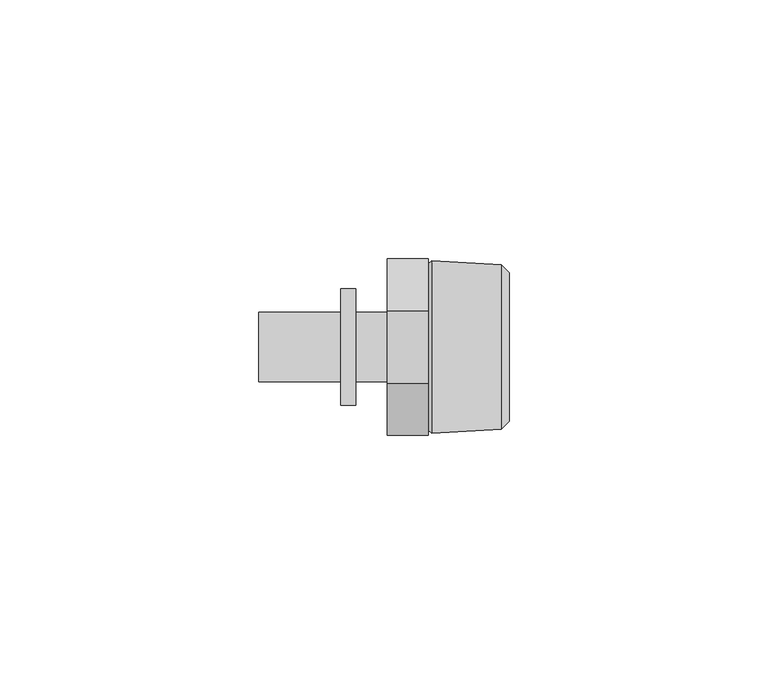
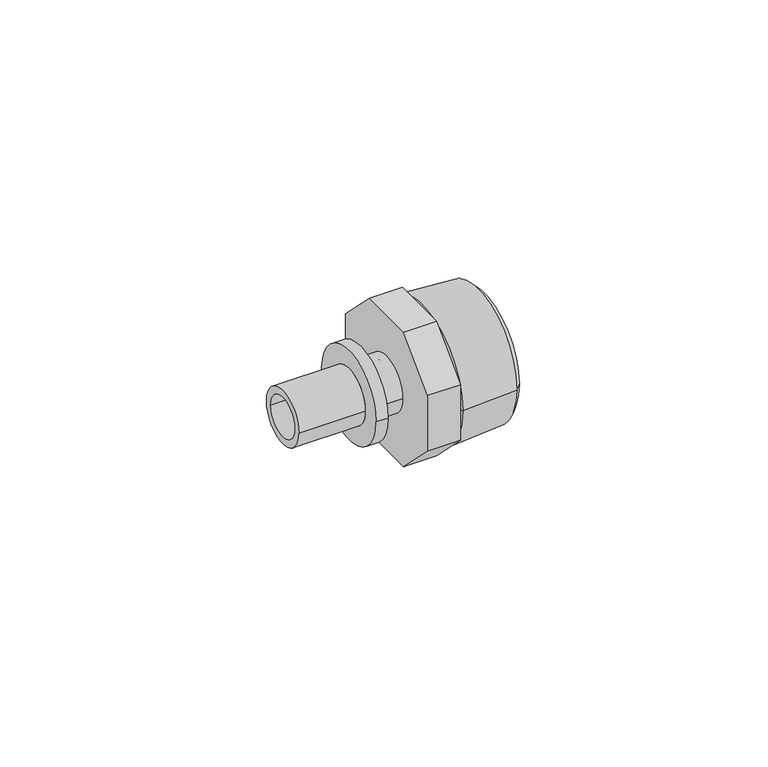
"""IFC4 building model written with IfcOpenShell, lengths in millimetres: pipe fitting geometry, RAUTITAN_Adapter_external_thread : RTI A external DE."""

from ifc_helpers import new_model, si_unit, frame, origin, place, context, project, spatial, polyline, circle_curve, outline, extrude, source, transform, mapped, element, save
from ifc_brep_helpers import plane_surface, cylinder_surface, revolved_surface, advanced_brep


def pipe_fitting_7c315e3e(model_context):
    return source(origin(), model_context, "Body", "SolidModel", [
        advanced_brep(
        [(-8.97, 6.725, 0.0), (-8.97, -6.725, 0.0), (-24.8, -6.725, 0.0), (-24.8, 6.725, 0.0), (-6.1, 11.25, 0.0), (-6.1, -11.25, 0.0), (-8.97, -11.25, 0.0), (-8.97, 11.25, 0.0), (-24.8, 4.95, 0.0), (-24.8, -4.95, 0.0), (0.0, -4.95, 0.0), (0.0, 4.95, 0.0), (0.0, 6.725, 0.0), (0.0, -6.725, 0.0), (-6.1, -6.725, 0.0), (-6.1, 6.725, 0.0)],
        [
            (0, 1, circle_curve(frame((-8.97, 0.0, 0.0), z_axis=(-1.0, 0.0, 0.0), x_axis=(0.0, -1.0, 0.0)), 6.725)),
            (1, 2),
            (2, 3, circle_curve(frame((-24.8, 0.0, 0.0), z_axis=(1.0, 0.0, 0.0), x_axis=(0.0, -1.0, 0.0)), 6.725)),
            (3, 0),
            (4, 5, circle_curve(frame((-6.1, 0.0, 0.0), z_axis=(-1.0, 0.0, 0.0), x_axis=(0.0, -1.0, 0.0)), 11.25)),
            (5, 6),
            (6, 7, circle_curve(frame((-8.97, 0.0, 0.0), z_axis=(1.0, 0.0, 0.0), x_axis=(0.0, -1.0, 0.0)), 11.25)),
            (7, 4),
            (8, 9, circle_curve(frame((-24.8, 0.0, 0.0), z_axis=(-1.0, 0.0, 0.0), x_axis=(0.0, -1.0, 0.0)), 4.95)),
            (9, 10),
            (10, 11, circle_curve(frame((0.0, 0.0, 0.0), z_axis=(1.0, 0.0, 0.0), x_axis=(0.0, -1.0, 0.0)), 4.95)),
            (11, 8),
            (2, 3, circle_curve(frame((-24.8, 0.0, 0.0), z_axis=(-1.0, 0.0, 0.0), x_axis=(0.0, 1.0, 0.0)), 6.725)),
            (8, 9, circle_curve(frame((-24.8, 0.0, 0.0), z_axis=(1.0, 0.0, 0.0), x_axis=(0.0, 1.0, 0.0)), 4.95)),
            (1, 0, circle_curve(frame((-8.97, 0.0, 0.0), z_axis=(-1.0, 0.0, 0.0), x_axis=(0.0, 1.0, 0.0)), 6.725)),
            (6, 7, circle_curve(frame((-8.97, 0.0, 0.0), z_axis=(-1.0, 0.0, 0.0), x_axis=(0.0, 1.0, 0.0)), 11.25)),
            (5, 4, circle_curve(frame((-6.1, 0.0, 0.0), z_axis=(-1.0, 0.0, 0.0), x_axis=(0.0, 1.0, 0.0)), 11.25)),
            (12, 13, circle_curve(frame((0.0, 0.0, 0.0), z_axis=(1.0, 0.0, 0.0), x_axis=(0.0, 1.0, 0.0)), 6.725)),
            (13, 12, circle_curve(frame((0.0, 0.0, 0.0), z_axis=(1.0, 0.0, 0.0), x_axis=(0.0, -1.0, 0.0)), 6.725)),
            (10, 11, circle_curve(frame((0.0, 0.0, 0.0), z_axis=(-1.0, 0.0, 0.0), x_axis=(0.0, 1.0, 0.0)), 4.95)),
            (13, 14),
            (14, 15, circle_curve(frame((-6.1, 0.0, 0.0), z_axis=(1.0, 0.0, 0.0), x_axis=(0.0, -1.0, 0.0)), 6.725)),
            (15, 12),
            (14, 15, circle_curve(frame((-6.1, 0.0, 0.0), z_axis=(-1.0, 0.0, 0.0), x_axis=(0.0, 1.0, 0.0)), 6.725)),
        ],
        [
            cylinder_surface(frame((0.0, 0.0, 0.0), z_axis=(1.0, 0.0, 0.0), x_axis=(0.0, -1.0, 0.0)), 6.725),
            cylinder_surface(frame((0.0, 0.0, 0.0), z_axis=(1.0, 0.0, 0.0), x_axis=(0.0, -1.0, 0.0)), 11.25),
            revolved_surface(polyline([(0.0, -4.95, 0.0), (-24.8, -4.95, 0.0)]), (0.0, 0.0, 0.0), (1.0, 0.0, 0.0)),
            plane_surface(frame((-24.8, 0.0, 0.0), z_axis=(-1.0, 0.0, 0.0), x_axis=(0.0, 1.0, 0.0))),
            cylinder_surface(frame((0.0, 0.0, 0.0), z_axis=(1.0, 0.0, 0.0), x_axis=(0.0, 1.0, 0.0)), 6.725),
            plane_surface(frame((-8.97, 0.0, 0.0), z_axis=(-1.0, 0.0, 0.0), x_axis=(0.0, 1.0, 0.0))),
            cylinder_surface(frame((0.0, 0.0, 0.0), z_axis=(1.0, 0.0, 0.0), x_axis=(0.0, 1.0, 0.0)), 11.25),
            plane_surface(frame((0.0, 0.0, 0.0), z_axis=(1.0, 0.0, 0.0), x_axis=(0.0, 1.0, 0.0))),
            revolved_surface(polyline([(0.0, 4.95, 0.0), (-24.8, 4.95, 0.0)]), (0.0, 0.0, 0.0), (1.0, 0.0, 0.0)),
            plane_surface(frame((-6.1, 0.0, 0.0), z_axis=(1.0, 0.0, 0.0), x_axis=(0.0, 1.0, 0.0))),
        ],
        [
            (0, [[1, 2, 3, 4]]),
            (1, [[5, 6, 7, 8]]),
            (2, [[9, 10, 11, 12]]),
            (3, [[13, -3], [14, -9]]),
            (4, [[15, -4, -13, -2]]),
            (5, [[16, -7], [-15, -1]]),
            (6, [[17, -8, -16, -6]]),
            (7, [[18, 19], [20, -11]]),
            (8, [[-14, -12, -20, -10]]),
            (0, [[-19, 21, 22, 23]]),
            (9, [[-17, -5], [24, -22]]),
            (4, [[-18, -23, -24, -21]]),
        ],
    ),
        advanced_brep(
        [(8.9732803, 12.75, 0.0), (8.9732803, -12.75, 0.0), (23.5, -12.75, 0.0), (23.5, 12.75, 0.0), (7.87, 11.6467197, 0.0), (7.87, -11.6467197, 0.0), (8.6106902, 16.695, 0.0), (8.6106902, -16.695, 0.0), (7.87, -16.1, 0.0), (7.87, 16.1, 0.0), (22.0000007, 15.91, 0.0), (22.0000007, -15.91, 0.0), (23.5, 14.3, 0.0), (23.5, -14.3, 0.0)],
        [
            (0, 1, circle_curve(frame((8.9732803, 0.0, 0.0), z_axis=(-1.0, 0.0, 0.0), x_axis=(0.0, -1.0, 0.0)), 12.75)),
            (1, 2),
            (2, 3, circle_curve(frame((23.5, 0.0, 0.0), z_axis=(1.0, 0.0, 0.0), x_axis=(0.0, -1.0, 0.0)), 12.75)),
            (3, 0),
            (4, 5, circle_curve(frame((7.87, 0.0, 0.0), z_axis=(-1.0, 0.0, 0.0), x_axis=(0.0, -1.0, 0.0)), 11.6467197)),
            (5, 1),
            (0, 4),
            (6, 7, circle_curve(frame((8.6106902, 0.0, 0.0), z_axis=(-1.0, 0.0, 0.0), x_axis=(0.0, -1.0, 0.0)), 16.695)),
            (7, 8),
            (8, 9, circle_curve(frame((7.87, 0.0, 0.0), z_axis=(1.0, 0.0, 0.0), x_axis=(0.0, -1.0, 0.0)), 16.1)),
            (9, 6),
            (10, 11, circle_curve(frame((22.0000007, 0.0, 0.0), z_axis=(-1.0, 0.0, 0.0), x_axis=(0.0, -1.0, 0.0)), 15.91)),
            (11, 7),
            (6, 10),
            (12, 13, circle_curve(frame((23.5, 0.0, 0.0), z_axis=(-1.0, 0.0, 0.0), x_axis=(0.0, -1.0, 0.0)), 14.3)),
            (13, 11),
            (10, 12),
            (1, 0, circle_curve(frame((8.9732803, 0.0, 0.0), z_axis=(-1.0, 0.0, 0.0), x_axis=(0.0, 1.0, 0.0)), 12.75)),
            (3, 2, circle_curve(frame((23.5, 0.0, 0.0), z_axis=(1.0, 0.0, 0.0), x_axis=(0.0, 1.0, 0.0)), 12.75)),
            (5, 4, circle_curve(frame((7.87, 0.0, 0.0), z_axis=(-1.0, 0.0, 0.0), x_axis=(0.0, 1.0, 0.0)), 11.6467197)),
            (8, 9, circle_curve(frame((7.87, 0.0, 0.0), z_axis=(-1.0, 0.0, 0.0), x_axis=(0.0, 1.0, 0.0)), 16.1)),
            (7, 6, circle_curve(frame((8.6106902, 0.0, 0.0), z_axis=(-1.0, 0.0, 0.0), x_axis=(0.0, 1.0, 0.0)), 16.695)),
            (11, 10, circle_curve(frame((22.0000007, 0.0, 0.0), z_axis=(-1.0, 0.0, 0.0), x_axis=(0.0, 1.0, 0.0)), 15.91)),
            (13, 12, circle_curve(frame((23.5, 0.0, 0.0), z_axis=(-1.0, 0.0, 0.0), x_axis=(0.0, 1.0, 0.0)), 14.3)),
        ],
        [
            revolved_surface(polyline([(23.5, -12.75, 0.0), (8.9732803, -12.75, 0.0)]), (0.0, 0.0, 0.0), (1.0, 0.0, 0.0)),
            revolved_surface(polyline([(8.9732803, -12.75, 0.0), (7.87, -11.6467197, 0.0)]), (0.0, 0.0, 0.0), (1.0, 0.0, 0.0)),
            revolved_surface(polyline([(7.87, -16.1, 0.0), (8.6106902, -16.695, 0.0)]), (0.0, 0.0, 0.0), (1.0, 0.0, 0.0)),
            revolved_surface(polyline([(8.6106902, -16.695, 0.0), (22.0000007, -15.91, 0.0)]), (0.0, 0.0, 0.0), (1.0, 0.0, 0.0)),
            revolved_surface(polyline([(22.0000007, -15.91, 0.0), (23.5, -14.3, 0.0)]), (0.0, 0.0, 0.0), (1.0, 0.0, 0.0)),
            revolved_surface(polyline([(23.5, 12.75, 0.0), (8.9732803, 12.75, 0.0)]), (0.0, 0.0, 0.0), (1.0, 0.0, 0.0)),
            revolved_surface(polyline([(8.9732803, 12.75, 0.0), (7.87, 11.6467197, 0.0)]), (0.0, 0.0, 0.0), (1.0, 0.0, 0.0)),
            plane_surface(frame((7.87, 0.0, 0.0), z_axis=(-1.0, 0.0, 0.0), x_axis=(0.0, 1.0, 0.0))),
            revolved_surface(polyline([(7.87, 16.1, 0.0), (8.6106902, 16.695, 0.0)]), (0.0, 0.0, 0.0), (1.0, 0.0, 0.0)),
            revolved_surface(polyline([(8.6106902, 16.695, 0.0), (22.0000007, 15.91, 0.0)]), (0.0, 0.0, 0.0), (1.0, 0.0, 0.0)),
            revolved_surface(polyline([(22.0000007, 15.91, 0.0), (23.5, 14.3, 0.0)]), (0.0, 0.0, 0.0), (1.0, 0.0, 0.0)),
            plane_surface(frame((23.5, 0.0, 0.0), z_axis=(1.0, 0.0, 0.0), x_axis=(0.0, 1.0, 0.0))),
        ],
        [
            (0, [[1, 2, 3, 4]]),
            (1, [[5, 6, -1, 7]]),
            (2, [[8, 9, 10, 11]]),
            (3, [[12, 13, -8, 14]]),
            (4, [[15, 16, -12, 17]]),
            (5, [[18, -4, 19, -2]]),
            (6, [[20, -7, -18, -6]]),
            (7, [[21, -10], [-20, -5]]),
            (8, [[22, -11, -21, -9]]),
            (9, [[23, -14, -22, -13]]),
            (10, [[24, -17, -23, -16]]),
            (11, [[-24, -15], [-19, -3]]),
        ],
    ),
        extrude(outline(polyline([(-17.0, 7.0416306), (-7.0416306, 17.0), (7.0416306, 17.0), (17.0, 7.0416306), (17.0, -7.0416306), (7.0416306, -17.0), (-7.0416306, -17.0), (-17.0, -7.0416306), (-17.0, 7.0416306)])), frame((0.0, 0.0, 0.0), z_axis=(1.0, 0.0, 0.0), x_axis=(0.0, 1.0, 0.0)), (0.0, 0.0, 1.0), 7.87),
    ])


if __name__ == "__main__":
    model = new_model("IFC4")
    model_context = context("Model", 3, world=origin())
    ifc_project = project(units=[si_unit("LENGTHUNIT", "METRE", prefix="MILLI")], contexts=[model_context])
    site = spatial("IfcSite", under=ifc_project)
    building = spatial("IfcBuilding", under=site)
    placement = place(None, origin())
    pipe_fitting_shape = pipe_fitting_7c315e3e(model_context)
    element("IfcPipeFitting", 1, ObjectType="RAUTITAN_Adapter_external_thread : RTI A external DE", at=placement, inside=building, context=model_context, shape_type="MappedRepresentation", body=[
        mapped(pipe_fitting_shape, transform((0.0, 0.0, 0.0), x_axis=(1.0, 0.0, 0.0), y_axis=(0.0, 1.0, 0.0), z_axis=(0.0, 0.0, 1.0))),
    ])
    save(model, "model.ifc")
